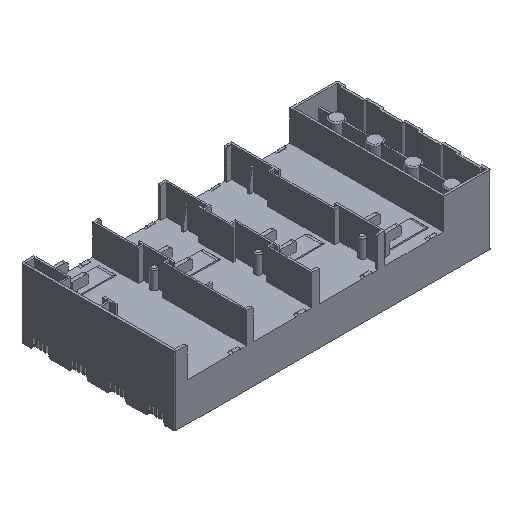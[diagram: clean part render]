
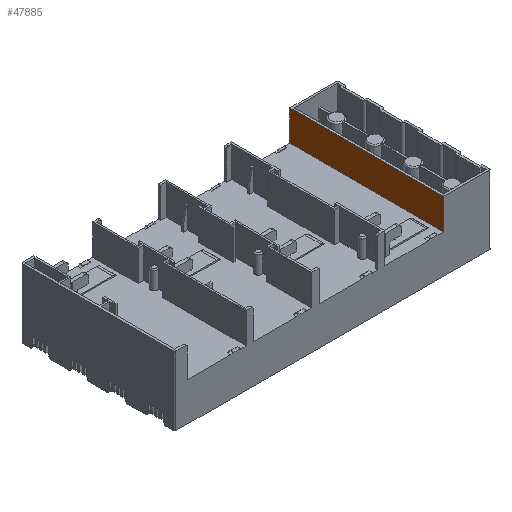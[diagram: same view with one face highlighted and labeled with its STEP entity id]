
A CAD part, isometric view. The second image highlights one B-rep face of the part: STEP entity #47885.
In plain terms, the highlighted planar face has unit normal (-1, 0, 0).
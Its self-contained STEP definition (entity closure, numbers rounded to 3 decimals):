
#1111 = DIRECTION ( 'NONE',  ( 0., 0., 1. ) ) ;
#1582 = CARTESIAN_POINT ( 'NONE',  ( 187., 140., 0. ) ) ;
#2059 = ORIENTED_EDGE ( 'NONE', *, *, #36487, .T. ) ;
#4604 = LINE ( 'NONE', #106624, #32186 ) ;
#8096 = ORIENTED_EDGE ( 'NONE', *, *, #55539, .T. ) ;
#10147 = CARTESIAN_POINT ( 'NONE',  ( 187., 140., 39.36 ) ) ;
#15534 = VERTEX_POINT ( 'NONE', #28007 ) ;
#16008 = PLANE ( 'NONE',  #119465 ) ;
#22831 = CARTESIAN_POINT ( 'NONE',  ( 187., 0., -28. ) ) ;
#25011 = DIRECTION ( 'NONE',  ( 0., -1., 0. ) ) ;
#25371 = DIRECTION ( 'NONE',  ( -1., 0., 0. ) ) ;
#28007 = CARTESIAN_POINT ( 'NONE',  ( 187., 140., -28. ) ) ;
#32186 = VECTOR ( 'NONE', #51830, 1000. ) ;
#32445 = LINE ( 'NONE', #10147, #45475 ) ;
#32822 = VECTOR ( 'NONE', #1111, 1000. ) ;
#36487 = EDGE_CURVE ( 'NONE', #40128, #39040, #4604, .T. ) ;
#39040 = VERTEX_POINT ( 'NONE', #1582 ) ;
#40128 = VERTEX_POINT ( 'NONE', #106173 ) ;
#41210 = LINE ( 'NONE', #70341, #67300 ) ;
#44561 = LINE ( 'NONE', #46898, #32822 ) ;
#45475 = VECTOR ( 'NONE', #111480, 1000. ) ;
#46898 = CARTESIAN_POINT ( 'NONE',  ( 187., 0., -28. ) ) ;
#47885 = ADVANCED_FACE ( 'NONE', ( #87146 ), #16008, .T. ) ;
#51830 = DIRECTION ( 'NONE',  ( 0., 1., 0. ) ) ;
#55539 = EDGE_CURVE ( 'NONE', #15534, #71528, #41210, .T. ) ;
#56753 = EDGE_CURVE ( 'NONE', #39040, #15534, #32445, .T. ) ;
#61928 = EDGE_CURVE ( 'NONE', #71528, #40128, #44561, .T. ) ;
#67300 = VECTOR ( 'NONE', #25011, 1000. ) ;
#69175 = ORIENTED_EDGE ( 'NONE', *, *, #56753, .T. ) ;
#70341 = CARTESIAN_POINT ( 'NONE',  ( 187., 52.5, -28. ) ) ;
#71528 = VERTEX_POINT ( 'NONE', #22831 ) ;
#77208 = ORIENTED_EDGE ( 'NONE', *, *, #61928, .T. ) ;
#87146 = FACE_OUTER_BOUND ( 'NONE', #115120, .T. ) ;
#90546 = CARTESIAN_POINT ( 'NONE',  ( 187., 105., -28. ) ) ;
#106173 = CARTESIAN_POINT ( 'NONE',  ( 187., 0., 0. ) ) ;
#106624 = CARTESIAN_POINT ( 'NONE',  ( 187., 105., 0. ) ) ;
#108810 = DIRECTION ( 'NONE',  ( 0., 0., 1. ) ) ;
#111480 = DIRECTION ( 'NONE',  ( 0., 0., -1. ) ) ;
#115120 = EDGE_LOOP ( 'NONE', ( #69175, #8096, #77208, #2059 ) ) ;
#119465 = AXIS2_PLACEMENT_3D ( 'NONE', #90546, #25371, #108810 ) ;
